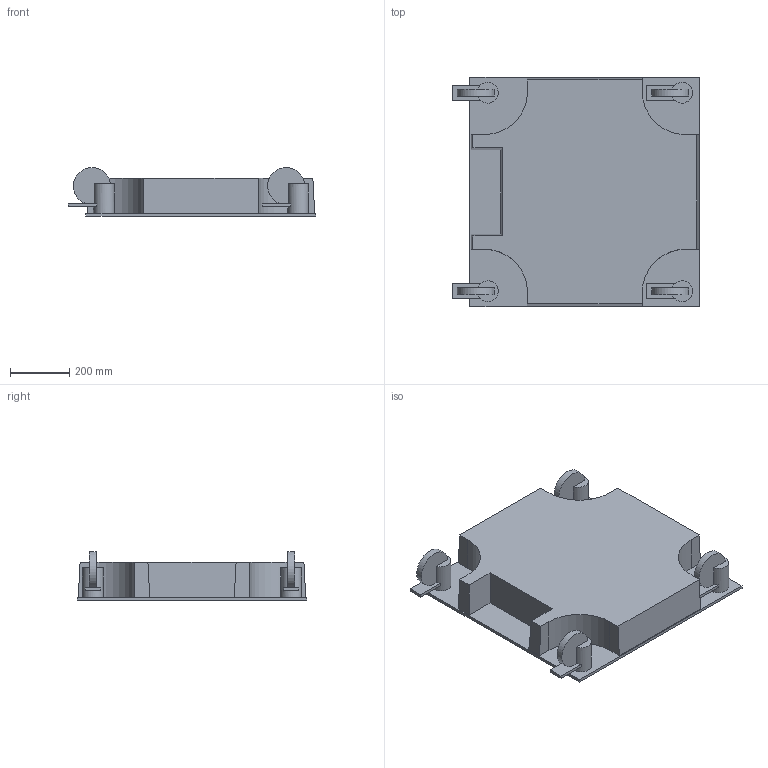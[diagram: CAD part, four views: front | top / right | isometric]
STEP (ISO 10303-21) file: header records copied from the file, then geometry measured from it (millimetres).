
FILE_DESCRIPTION(/* description */ ('Unknown'),/* implementation_level */ '2;1');
FILE_NAME(/* name */ '3D_PowerDolly',/* time_stamp */ '2025-08-25T10:02:49+02:00',/* author */ ('Unknown'),/* organization */ ('Unknown'),/* preprocessor_version */ 'ST-DEVELOPER v20',/* originating_system */ 'Solid Edge',/* authorisation */ 'Unknown');
FILE_SCHEMA (('AUTOMOTIVE_DESIGN {1 0 10303 214 3 1 1}'));
Length unit declared in the file: millimetre
Products named in the file (1): 3D_PowerDolly
Bounding box: 835.02 x 775 x 164.78 mm (x, y, z)
Volume: 59075048.1 mm3; surface area: 1791436.6 mm2
Topology: 1 solids, 1 shells, 67 faces, 184 edges, 124 vertices
Faces by surface type: plane 55, cylinder 12
Full cylindrical faces by diameter (mm): 70 x4
Entity records: 2064 total; most frequent: CARTESIAN_POINT 356, ORIENTED_EDGE 344, DIRECTION 344, EDGE_CURVE 172, LINE 136, VECTOR 136, VERTEX_POINT 116, AXIS2_PLACEMENT_3D 104
